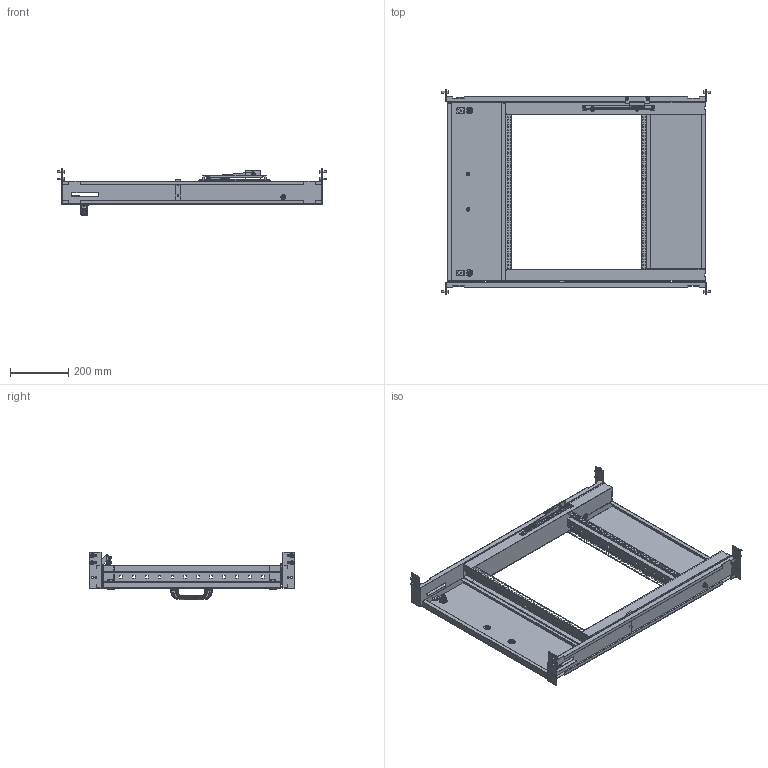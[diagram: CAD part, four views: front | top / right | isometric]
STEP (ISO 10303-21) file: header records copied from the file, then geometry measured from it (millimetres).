
FILE_DESCRIPTION(('Open CASCADE Model'),'2;1');
FILE_NAME('Open CASCADE Shape Model','2025-03-24T10:15:34',('Author'),( 'Open CASCADE'),'Open CASCADE STEP processor 7.8','Open CASCADE 7.8' ,'Unknown');
FILE_SCHEMA(('AUTOMOTIVE_DESIGN { 1 0 10303 214 1 1 1 1 }'));
Length unit declared in the file: millimetre
Products named in the file (35): Compound1; Compound2; Solid1; Solid2; Compound3; Solid3; Solid4; Solid5; Solid6; Solid7; Solid8; Solid9; Solid10; Solid11; Solid12; Solid13; Solid14; Solid15; Solid16; Solid17; Compound4; Solid18; Solid19; Solid20; Solid21; Compound5; Solid22; Solid23; Solid24; Solid25; Solid26; Solid27; Solid28; Solid29; Solid30
Assembly tree (53 placements, depth 3):
  Compound1
    Compound2
      Solid1
      Solid2
    Compound3
      Solid3
      Solid2
    Solid4  x2
    Solid5  x2
    Solid6
    Solid7
    Solid8
    Solid9
    Solid10
    Solid11  x2
    Solid12  x4
    Solid13  x8
    Solid14
    Solid15
    Solid16  x2
    Solid17  x2
    Compound4
      Solid18
      Solid19
    Solid20
    Solid21
    Compound5
      Solid22
      Solid23
      Solid24  x2
      Solid25
      Solid26  x2
      Solid27
      Solid28  x2
      Solid29
      Solid30
Bounding box: 926 x 707.5 x 165 mm (x, y, z)
Volume: 1833707 mm3; surface area: 2234464.1 mm2
Topology: 51 solids, 69 shells, 4373 faces, 11886 edges, 7609 vertices
Faces by surface type: plane 2284, cylinder 726, bspline 670, cone 439, torus 176, sphere 78
Entity records: 131100 total; most frequent: CARTESIAN_POINT 49491, ORIENTED_EDGE 18000, DIRECTION 14658, EDGE_CURVE 9170, VERTEX_POINT 5903, LINE 5652, VECTOR 5652, AXIS2_PLACEMENT_3D 4503
